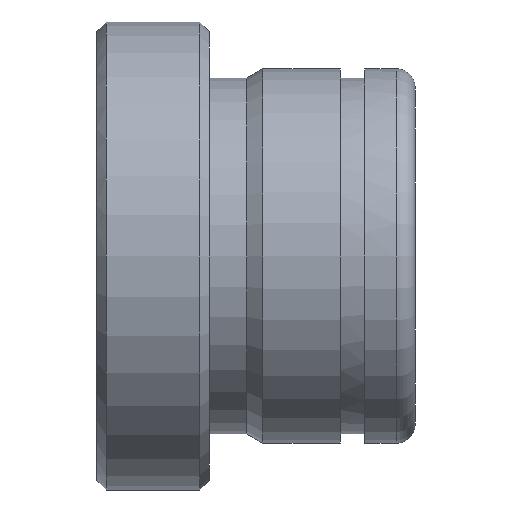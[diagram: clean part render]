
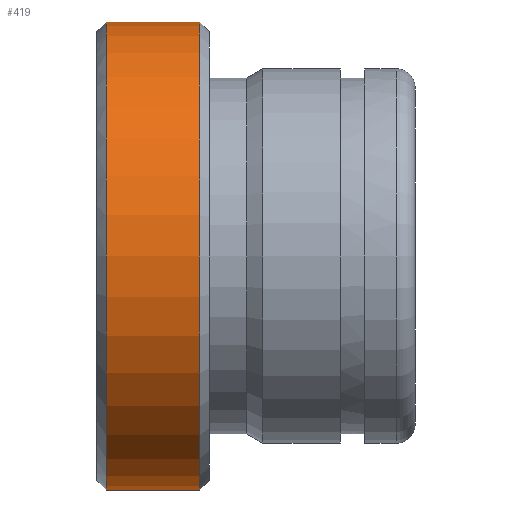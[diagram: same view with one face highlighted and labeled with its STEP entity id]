
A CAD part, front view. The second image highlights one B-rep face of the part: STEP entity #419.
In plain terms, the highlighted cylindrical face has radius 12.5 mm (diameter 25 mm), a partial arc.
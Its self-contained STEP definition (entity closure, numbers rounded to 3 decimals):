
#231=CARTESIAN_POINT('Vertex',(0.5,0.,-12.5)) ;
#238=CARTESIAN_POINT('Vertex',(0.5,0.,12.5)) ;
#267=CARTESIAN_POINT('Axis2P3D Location',(0.5,0.,0.)) ;
#271=CARTESIAN_POINT('Vertex',(0.5,-12.5,0.)) ;
#274=CARTESIAN_POINT('Axis2P3D Location',(0.5,0.,0.)) ;
#359=CARTESIAN_POINT('Line Origine',(34.,0.,12.5)) ;
#363=CARTESIAN_POINT('Vertex',(5.5,0.,12.5)) ;
#377=CARTESIAN_POINT('Vertex',(5.5,0.,-12.5)) ;
#380=CARTESIAN_POINT('Line Origine',(34.,0.,-12.5)) ;
#394=CARTESIAN_POINT('Axis2P3D Location',(34.,0.,0.)) ;
#399=CARTESIAN_POINT('Axis2P3D Location',(5.5,0.,0.)) ;
#403=CARTESIAN_POINT('Vertex',(5.5,-12.5,0.)) ;
#406=CARTESIAN_POINT('Axis2P3D Location',(5.5,0.,0.)) ;
#268=DIRECTION('Axis2P3D Direction',(1.,0.,-0.)) ;
#275=DIRECTION('Axis2P3D Direction',(1.,0.,-0.)) ;
#360=DIRECTION('Vector Direction',(-1.,0.,0.)) ;
#381=DIRECTION('Vector Direction',(-1.,0.,0.)) ;
#395=DIRECTION('Axis2P3D Direction',(-1.,-0.,-0.)) ;
#396=DIRECTION('Axis2P3D XDirection',(0.,0.,-1.)) ;
#400=DIRECTION('Axis2P3D Direction',(-1.,-0.,-0.)) ;
#407=DIRECTION('Axis2P3D Direction',(-1.,-0.,-0.)) ;
#269=AXIS2_PLACEMENT_3D('Circle Axis2P3D',#267,#268,$) ;
#276=AXIS2_PLACEMENT_3D('Circle Axis2P3D',#274,#275,$) ;
#397=AXIS2_PLACEMENT_3D('Cylinder Axis2P3D',#394,#395,#396) ;
#401=AXIS2_PLACEMENT_3D('Circle Axis2P3D',#399,#400,$) ;
#408=AXIS2_PLACEMENT_3D('Circle Axis2P3D',#406,#407,$) ;
#412=ORIENTED_EDGE('',*,*,#384,.T.) ;
#413=ORIENTED_EDGE('',*,*,#405,.F.) ;
#414=ORIENTED_EDGE('',*,*,#410,.F.) ;
#415=ORIENTED_EDGE('',*,*,#365,.T.) ;
#416=ORIENTED_EDGE('',*,*,#278,.T.) ;
#417=ORIENTED_EDGE('',*,*,#273,.T.) ;
#361=VECTOR('Line Direction',#360,1.) ;
#382=VECTOR('Line Direction',#381,1.) ;
#419=ADVANCED_FACE('553-15X17',(#418),#398,.T.) ;
#270=CIRCLE('generated circle',#269,12.5) ;
#277=CIRCLE('generated circle',#276,12.5) ;
#402=CIRCLE('generated circle',#401,12.5) ;
#409=CIRCLE('generated circle',#408,12.5) ;
#398=CYLINDRICAL_SURFACE('generated cylinder',#397,12.5) ;
#273=EDGE_CURVE('',#272,#232,#270,.T.) ;
#278=EDGE_CURVE('',#239,#272,#277,.T.) ;
#365=EDGE_CURVE('',#364,#239,#362,.T.) ;
#384=EDGE_CURVE('',#232,#378,#383,.F.) ;
#405=EDGE_CURVE('',#404,#378,#402,.F.) ;
#410=EDGE_CURVE('',#364,#404,#409,.F.) ;
#411=EDGE_LOOP('',(#412,#413,#414,#415,#416,#417)) ;
#418=FACE_OUTER_BOUND('',#411,.T.) ;
#362=LINE('Line',#359,#361) ;
#383=LINE('Line',#380,#382) ;
#232=VERTEX_POINT('',#231) ;
#239=VERTEX_POINT('',#238) ;
#272=VERTEX_POINT('',#271) ;
#364=VERTEX_POINT('',#363) ;
#378=VERTEX_POINT('',#377) ;
#404=VERTEX_POINT('',#403) ;
